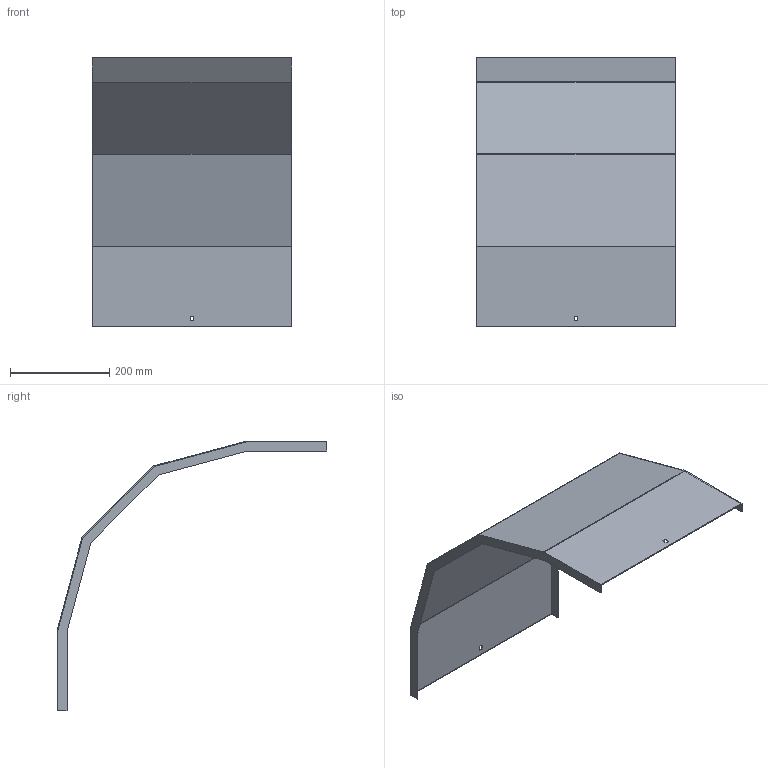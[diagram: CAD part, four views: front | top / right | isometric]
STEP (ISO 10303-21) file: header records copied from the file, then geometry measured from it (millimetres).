
FILE_DESCRIPTION (( 'STEP AP214' ), '1' );
FILE_NAME ('A2_33N3C400.step', '2025-02-21T10:44:27', ( '' ), ( '' ), 'SwSTEP 2.0', 'SolidWorks 2023', '' );
FILE_SCHEMA (( 'AUTOMOTIVE_DESIGN' ));
Length unit declared in the file: millimetre
Products named in the file (1): A2_33N3C400
Bounding box: 403 x 544.46 x 544.46 mm (x, y, z)
Volume: 603345.1 mm3; surface area: 808531.8 mm2
Topology: 1 solids, 1 shells, 34 faces, 96 edges, 64 vertices
Faces by surface type: plane 34
Entity records: 1111 total; most frequent: CARTESIAN_POINT 195, ORIENTED_EDGE 192, DIRECTION 166, VECTOR 96, LINE 96, EDGE_CURVE 96, VERTEX_POINT 64, EDGE_LOOP 38
